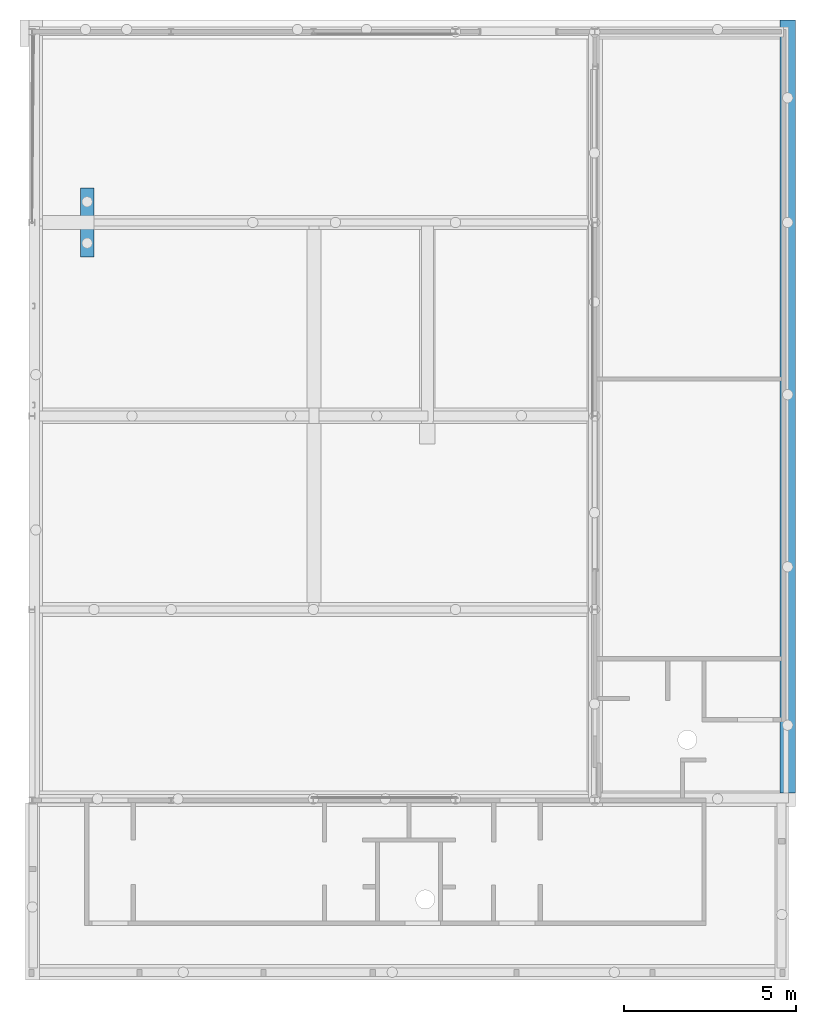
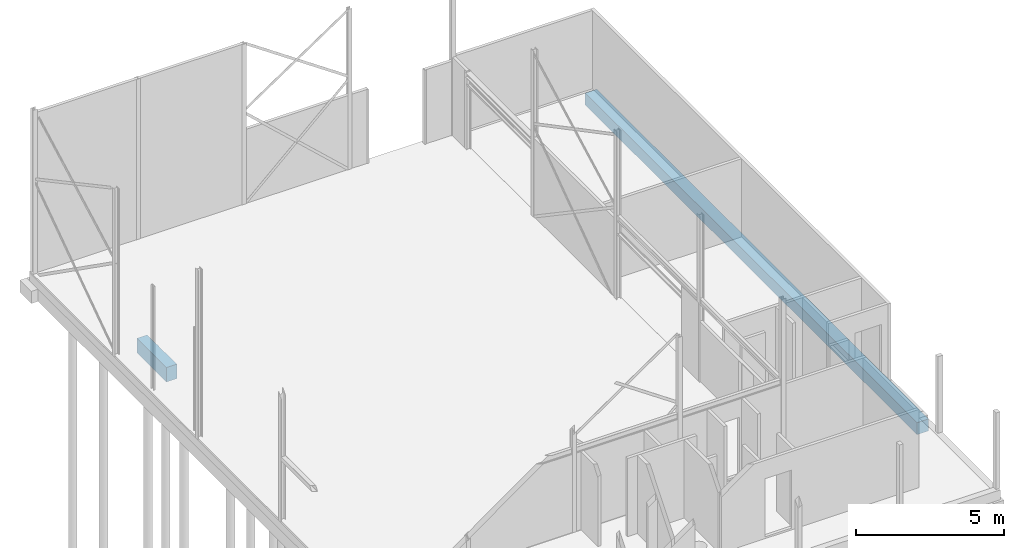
# One storey, part 15 of 17: 2 footings.
"""IFC2X3 building model written with IfcOpenShell, lengths in millimetres."""

from ifc_helpers import new_model, entity, si_unit, converted_unit, derived_unit, direction, frame, origin, place, context, subcontext, project, spatial, faceted_brep, source, transform, mapped, material, type_object, type_shapes, element, save


model = new_model("IFC2X3")

# Units and contexts
model_context = context("Model", 3, precision=0.01, world=origin(), true_north=direction((6.123031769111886e-17, 1.0)))
plan_context = context("Plan", 3, precision=0.01, world=origin(), true_north=direction((6.123031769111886e-17, 1.0)))
body_context = subcontext(model_context, "Body", "Model", "MODEL_VIEW")
ifc_project = project(units=[si_unit("LENGTHUNIT", "METRE", prefix="MILLI"), si_unit("AREAUNIT", "SQUARE_METRE"), si_unit("VOLUMEUNIT", "CUBIC_METRE"), converted_unit("PLANEANGLEUNIT", "DEGREE", entity("IfcPlaneAngleMeasure", 0.017453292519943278), si_unit("PLANEANGLEUNIT", "RADIAN"), dimensions=[0, 0, 0, 0, 0, 0, 0]), si_unit("MASSUNIT", "GRAM", prefix="KILO"), derived_unit("MASSDENSITYUNIT", [(si_unit("MASSUNIT", "GRAM", prefix="KILO"), 1), (si_unit("LENGTHUNIT", "METRE"), -3)]), derived_unit("IONCONCENTRATIONUNIT", [(si_unit("MASSUNIT", "GRAM", prefix="KILO"), 1), (si_unit("LENGTHUNIT", "METRE"), -3)]), derived_unit("MOMENTOFINERTIAUNIT", [(si_unit("LENGTHUNIT", "METRE"), 4)]), si_unit("TIMEUNIT", "SECOND"), si_unit("FREQUENCYUNIT", "HERTZ"), si_unit("THERMODYNAMICTEMPERATUREUNIT", "DEGREE_CELSIUS"), derived_unit("THERMALTRANSMITTANCEUNIT", [(si_unit("MASSUNIT", "GRAM", prefix="KILO"), 1), (si_unit("THERMODYNAMICTEMPERATUREUNIT", "KELVIN"), -1), (si_unit("TIMEUNIT", "SECOND"), -3)]), derived_unit("THERMALCONDUCTANCEUNIT", [(si_unit("MASSUNIT", "GRAM", prefix="KILO"), 1), (si_unit("THERMODYNAMICTEMPERATUREUNIT", "KELVIN"), -1), (si_unit("TIMEUNIT", "SECOND"), -3), (si_unit("LENGTHUNIT", "METRE"), 1)]), derived_unit("VOLUMETRICFLOWRATEUNIT", [(si_unit("LENGTHUNIT", "METRE", prefix="DECI"), 3), (si_unit("TIMEUNIT", "SECOND"), -1)]), derived_unit("MASSFLOWRATEUNIT", [(si_unit("MASSUNIT", "GRAM", prefix="KILO"), 1), (si_unit("TIMEUNIT", "SECOND"), -1)]), derived_unit("ROTATIONALFREQUENCYUNIT", [(si_unit("TIMEUNIT", "SECOND"), -1)]), si_unit("ELECTRICCURRENTUNIT", "AMPERE"), si_unit("ELECTRICVOLTAGEUNIT", "VOLT"), si_unit("POWERUNIT", "WATT"), si_unit("FORCEUNIT", "NEWTON", prefix="KILO"), si_unit("ILLUMINANCEUNIT", "LUX"), si_unit("LUMINOUSFLUXUNIT", "LUMEN"), si_unit("LUMINOUSINTENSITYUNIT", "CANDELA"), si_unit("ENERGYUNIT", "JOULE"), derived_unit("USERDEFINED", [(si_unit("MASSUNIT", "GRAM", prefix="KILO"), -1), (si_unit("LENGTHUNIT", "METRE"), -2), (si_unit("TIMEUNIT", "SECOND"), 3), (si_unit("LUMINOUSFLUXUNIT", "LUMEN"), 1)]), derived_unit("USERDEFINED", [(si_unit("MASSUNIT", "GRAM", prefix="KILO"), 1), (si_unit("TIMEUNIT", "SECOND"), -3), (si_unit("LENGTHUNIT", "METRE"), 3), (si_unit("ELECTRICCURRENTUNIT", "AMPERE"), -2)]), derived_unit("SOUNDPOWERUNIT", [(si_unit("MASSUNIT", "GRAM", prefix="KILO"), 1), (si_unit("TIMEUNIT", "SECOND"), -3), (si_unit("LENGTHUNIT", "METRE"), 2)]), derived_unit("SOUNDPRESSUREUNIT", [(si_unit("MASSUNIT", "GRAM", prefix="KILO"), 1), (si_unit("LENGTHUNIT", "METRE"), -1), (si_unit("TIMEUNIT", "SECOND"), -2)]), derived_unit("LINEARVELOCITYUNIT", [(si_unit("LENGTHUNIT", "METRE"), 1), (si_unit("TIMEUNIT", "SECOND"), -1)]), si_unit("PRESSUREUNIT", "PASCAL"), derived_unit("USERDEFINED", [(si_unit("MASSUNIT", "GRAM", prefix="KILO"), 1), (si_unit("LENGTHUNIT", "METRE"), -2), (si_unit("TIMEUNIT", "SECOND"), -2)]), derived_unit("LINEARFORCEUNIT", [(si_unit("MASSUNIT", "GRAM", prefix="KILO"), 1), (si_unit("TIMEUNIT", "SECOND"), -2)]), derived_unit("PLANARFORCEUNIT", [(si_unit("MASSUNIT", "GRAM", prefix="KILO"), 1), (si_unit("LENGTHUNIT", "METRE"), -1), (si_unit("TIMEUNIT", "SECOND"), -2)]), derived_unit("SPECIFICHEATCAPACITYUNIT", [(si_unit("THERMODYNAMICTEMPERATUREUNIT", "KELVIN"), -1), (si_unit("LENGTHUNIT", "METRE"), 2), (si_unit("TIMEUNIT", "SECOND"), -2)]), derived_unit("HEATFLUXDENSITYUNIT", [(si_unit("MASSUNIT", "GRAM", prefix="KILO"), 1), (si_unit("TIMEUNIT", "SECOND"), -3)]), derived_unit("HEATINGVALUEUNIT", [(si_unit("LENGTHUNIT", "METRE"), 2), (si_unit("TIMEUNIT", "SECOND"), -2)]), derived_unit("VAPORPERMEABILITYUNIT", [(si_unit("LENGTHUNIT", "METRE"), -1), (si_unit("TIMEUNIT", "SECOND"), 1)]), derived_unit("DYNAMICVISCOSITYUNIT", [(si_unit("MASSUNIT", "GRAM", prefix="KILO"), 1), (si_unit("TIMEUNIT", "SECOND"), -1), (si_unit("LENGTHUNIT", "METRE"), -1)]), derived_unit("THERMALEXPANSIONCOEFFICIENTUNIT", [(si_unit("THERMODYNAMICTEMPERATUREUNIT", "KELVIN"), -1)]), derived_unit("MODULUSOFELASTICITYUNIT", [(si_unit("MASSUNIT", "GRAM", prefix="KILO"), 1), (si_unit("LENGTHUNIT", "METRE"), -1), (si_unit("TIMEUNIT", "SECOND"), -2)]), derived_unit("ISOTHERMALMOISTURECAPACITYUNIT", [(si_unit("MASSUNIT", "GRAM", prefix="KILO"), -1), (si_unit("LENGTHUNIT", "METRE"), 3)]), derived_unit("MOISTUREDIFFUSIVITYUNIT", [(si_unit("TIMEUNIT", "SECOND"), -1), (si_unit("LENGTHUNIT", "METRE"), 2)]), derived_unit("MASSPERLENGTHUNIT", [(si_unit("MASSUNIT", "GRAM", prefix="KILO"), 1), (si_unit("LENGTHUNIT", "METRE"), -1)]), derived_unit("THERMALRESISTANCEUNIT", [(si_unit("MASSUNIT", "GRAM", prefix="KILO"), -1), (si_unit("TIMEUNIT", "SECOND"), 3), (si_unit("THERMODYNAMICTEMPERATUREUNIT", "KELVIN"), 1)]), derived_unit("ACCELERATIONUNIT", [(si_unit("LENGTHUNIT", "METRE"), 1), (si_unit("TIMEUNIT", "SECOND"), -2)]), derived_unit("ANGULARVELOCITYUNIT", [(si_unit("TIMEUNIT", "SECOND"), -1), (si_unit("PLANEANGLEUNIT", "RADIAN"), 1)]), derived_unit("LINEARSTIFFNESSUNIT", [(si_unit("MASSUNIT", "GRAM", prefix="KILO"), 1), (si_unit("TIMEUNIT", "SECOND"), -2)]), derived_unit("WARPINGCONSTANTUNIT", [(si_unit("LENGTHUNIT", "METRE"), 6)]), derived_unit("LINEARMOMENTUNIT", [(si_unit("MASSUNIT", "GRAM", prefix="KILO"), 1), (si_unit("LENGTHUNIT", "METRE"), 1), (si_unit("TIMEUNIT", "SECOND"), -2)]), derived_unit("TORQUEUNIT", [(si_unit("MASSUNIT", "GRAM", prefix="KILO"), 1), (si_unit("LENGTHUNIT", "METRE"), 2), (si_unit("TIMEUNIT", "SECOND"), -2)])], contexts=[model_context, plan_context])

# Site, building, storey
site_placement = place(None, origin())
site = spatial("IfcSite", under=ifc_project, at=site_placement, Name="Default", CompositionType="ELEMENT")
building_placement = place(site_placement, origin())
building = spatial("IfcBuilding", under=site, at=building_placement, CompositionType="ELEMENT")
storey_placement = place(building_placement, origin())
storey = spatial("IfcBuildingStorey", under=building, at=storey_placement, Name="00 begane grond", CompositionType="ELEMENT", Elevation=0.0)

# Footings
ifc_material = material(Name="ihwg beton")
type_product_1 = type_object("IfcTypeProduct", Name="16_SF_LIB_funderingsbalk_dw:450x500 (ihwg)", material=ifc_material)
shared_shape_1 = source(origin(), body_context, "Body", "Brep", [
    faceted_brep([(450.0, 0.0, -500.0), (450.0, 0.0, 0.0), (250.0, 0.0, 0.0), (100.0, 0.0, 0.0), (0.0, 0.0, 0.0), (0.0, 0.0, -500.0), (0.0, 22445.0, -500.0), (0.0, 22445.0, 0.0), (450.0, 22445.0, 0.0), (450.0, 22445.0, -500.0), (0.0, 21895.0, 0.0), (0.0, 50.0, 0.0), (0.0, 50.0, -500.0), (0.0, 21895.0, -500.0), (74.99999999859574, 1965.0, -500.0), (80.11112605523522, 1926.1771432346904, -500.0), (74.99999999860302, 6565.0, -500.0), (80.1111260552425, 6526.177143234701, -500.0), (80.11112605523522, 2003.8228567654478, -500.0), (95.09618943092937, 1890.0, -500.0), (118.93398282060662, 1858.9339828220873, -500.0), (149.99999999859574, 1835.0961894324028, -500.0), (186.17714323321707, 1820.1111260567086, -500.0), (224.99999999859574, 1815.0, -500.0), (263.82285676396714, 1820.1111260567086, -500.0), (299.99999999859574, 1835.0961894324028, -500.0), (331.0660171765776, 1858.9339828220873, -500.0), (354.9038105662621, 1890.0, -500.0), (369.88887394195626, 1926.1771432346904, -500.0), (374.99999999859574, 1965.0, -500.0), (374.999999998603, 6565.0, -500.0), (369.88887394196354, 6526.177143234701, -500.0), (369.88887394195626, 2003.8228567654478, -500.0), (354.9038105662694, 6490.0, -500.0), (354.9038105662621, 2040.0, -500.0), (331.0660171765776, 6458.933982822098, -500.0), (331.0660171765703, 2071.0660171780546, -500.0), (299.999999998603, 6435.096189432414, -500.0), (299.99999999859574, 2094.9038105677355, -500.0), (263.8228567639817, 6420.1111260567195, -500.0), (263.82285676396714, 2109.8888739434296, -500.0), (224.99999999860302, 6415.0, -500.0), (224.99999999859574, 2115.0, -500.0), (186.1771432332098, 2109.8888739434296, -500.0), (186.17714323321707, 6420.1111260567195, -500.0), (149.99999999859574, 2094.9038105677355, -500.0), (149.99999999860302, 6435.096189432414, -500.0), (118.93398282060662, 2071.066017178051, -500.0), (118.93398282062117, 6458.933982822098, -500.0), (95.09618943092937, 2040.0, -500.0), (95.09618943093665, 6490.0, -500.0), (374.9999999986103, 11565.0, -500.0), (369.88887394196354, 6603.822856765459, -500.0), (369.8888739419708, 11526.177143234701, -500.0), (354.9038105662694, 6640.0, -500.0), (354.90381056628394, 11490.0, -500.0), (331.06601717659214, 11458.933982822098, -500.0), (331.06601717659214, 6671.066017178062, -500.0), (299.9999999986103, 11435.096189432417, -500.0), (299.999999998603, 6694.903810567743, -500.0), (263.82285676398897, 11420.11112605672, -500.0), (263.8228567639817, 6709.888873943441, -500.0), (224.9999999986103, 11415.0, -500.0), (224.99999999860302, 6715.0, -500.0), (186.17714323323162, 6709.888873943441, -500.0), (186.17714323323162, 11420.11112605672, -500.0), (149.99999999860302, 6694.903810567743, -500.0), (149.9999999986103, 11435.096189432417, -500.0), (118.93398282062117, 6671.066017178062, -500.0), (118.93398282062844, 11458.933982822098, -500.0), (95.09618943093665, 6640.0, -500.0), (95.09618943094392, 11490.0, -500.0), (80.11112605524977, 11526.177143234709, -500.0), (80.1111260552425, 6603.822856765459, -500.0), (74.99999999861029, 11565.0, -500.0), (374.9999999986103, 16565.0, -500.0), (369.8888739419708, 11603.822856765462, -500.0), (369.8888739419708, 16526.177143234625, -500.0), (354.90381056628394, 11640.0, -500.0), (354.90381056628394, 16490.0, -500.0), (331.0660171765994, 11671.066017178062, -500.0), (331.06601717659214, 16458.93398282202, -500.0), (299.9999999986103, 11694.903810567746, -500.0), (299.9999999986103, 16435.096189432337, -500.0), (263.82285676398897, 11709.88887394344, -500.0), (263.82285676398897, 16420.111126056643, -500.0), (224.9999999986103, 11715.0, -500.0), (224.9999999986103, 16415.0, -500.0), (186.17714323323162, 16420.111126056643, -500.0), (186.1771432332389, 11709.88887394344, -500.0), (149.9999999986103, 16435.096189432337, -500.0), (149.9999999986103, 11694.903810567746, -500.0), (118.93398282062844, 16458.93398282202, -500.0), (118.93398282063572, 11671.06601717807, -500.0), (95.09618943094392, 16490.0, -500.0), (95.0961894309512, 11640.0, -500.0), (80.11112605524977, 16526.177143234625, -500.0), (80.11112605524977, 11603.822856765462, -500.0), (74.99999999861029, 16565.0, -500.0), (74.99999999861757, 20185.0, -500.0), (80.11112605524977, 16603.822856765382, -500.0), (374.99999999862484, 20185.0, -500.0), (369.8888739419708, 16603.822856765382, -500.0), (369.8888739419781, 20146.177143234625, -500.0), (354.90381056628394, 16640.0, -500.0), (354.9038105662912, 20110.0, -500.0), (331.0660171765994, 16671.066017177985, -500.0), (331.0660171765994, 20078.93398282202, -500.0), (299.9999999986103, 16694.90381056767, -500.0), (299.99999999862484, 20055.096189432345, -500.0), (263.82285676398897, 16709.888873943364, -500.0), (263.82285676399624, 20040.111126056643, -500.0), (224.9999999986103, 16715.0, -500.0), (224.99999999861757, 20035.0, -500.0), (186.1771432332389, 20040.111126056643, -500.0), (186.1771432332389, 16709.888873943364, -500.0), (149.99999999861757, 20055.096189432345, -500.0), (149.9999999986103, 16694.90381056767, -500.0), (118.93398282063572, 20078.93398282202, -500.0), (118.93398282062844, 16671.066017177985, -500.0), (95.0961894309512, 20110.0, -500.0), (95.09618943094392, 16640.0, -500.0), (80.11112605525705, 20146.177143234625, -500.0), (369.8888739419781, 20223.822856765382, -500.0), (354.9038105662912, 20260.0, -500.0), (331.0660171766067, 20291.066017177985, -500.0), (299.99999999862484, 20314.90381056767, -500.0), (263.82285676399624, 20329.888873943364, -500.0), (224.99999999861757, 20335.0, -500.0), (186.17714323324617, 20329.888873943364, -500.0), (149.99999999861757, 20314.90381056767, -500.0), (118.93398282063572, 20291.066017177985, -500.0), (95.0961894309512, 20260.0, -500.0), (80.11112605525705, 20223.822856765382, -500.0), (299.999999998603, 6435.096189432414, -480.0), (263.8228567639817, 6420.1111260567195, -480.0), (224.99999999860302, 6415.0, -480.0), (186.17714323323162, 6420.1111260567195, -480.0), (149.99999999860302, 6435.096189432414, -480.0), (118.93398282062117, 6458.933982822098, -480.0), (95.09618943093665, 6490.0, -480.0), (80.1111260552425, 6526.177143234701, -480.0), (74.99999999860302, 6565.0, -480.0), (80.1111260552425, 6603.822856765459, -480.0), (95.09618943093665, 6640.0, -480.0), (118.93398282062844, 6671.066017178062, -480.0), (149.99999999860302, 6694.903810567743, -480.0), (186.17714323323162, 6709.888873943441, -480.0), (224.99999999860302, 6715.0, -480.0), (263.8228567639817, 6709.888873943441, -480.0), (299.999999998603, 6694.903810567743, -480.0), (331.06601717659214, 6671.066017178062, -480.0), (354.9038105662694, 6640.0, -480.0), (369.88887394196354, 6603.822856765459, -480.0), (374.999999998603, 6565.0, -480.0), (369.88887394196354, 6526.177143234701, -480.0), (354.9038105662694, 6490.0, -480.0), (331.06601717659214, 6458.933982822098, -480.0), (299.99999999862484, 20055.096189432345, -480.0), (263.82285676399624, 20040.111126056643, -480.0), (224.99999999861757, 20035.0, -480.0), (186.17714323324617, 20040.111126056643, -480.0), (149.99999999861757, 20055.096189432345, -480.0), (118.93398282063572, 20078.93398282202, -480.0), (95.0961894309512, 20110.0, -480.0), (80.11112605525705, 20146.177143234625, -480.0), (74.99999999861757, 20185.0, -480.0), (80.11112605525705, 20223.822856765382, -480.0), (95.0961894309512, 20260.0, -480.0), (118.933982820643, 20291.066017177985, -480.0), (149.99999999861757, 20314.90381056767, -480.0), (186.17714323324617, 20329.888873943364, -480.0), (224.99999999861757, 20335.0, -480.0), (263.82285676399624, 20329.888873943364, -480.0), (299.99999999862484, 20314.90381056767, -480.0), (331.0660171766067, 20291.066017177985, -480.0), (354.9038105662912, 20260.0, -480.0), (369.8888739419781, 20223.822856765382, -480.0), (374.99999999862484, 20185.0, -480.0), (369.8888739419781, 20146.177143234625, -480.0), (354.9038105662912, 20110.0, -480.0), (331.0660171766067, 20078.93398282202, -480.0), (299.9999999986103, 11435.096189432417, -480.0), (263.82285676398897, 11420.11112605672, -480.0), (224.9999999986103, 11415.0, -480.0), (186.1771432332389, 11420.11112605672, -480.0), (149.9999999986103, 11435.096189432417, -480.0), (118.93398282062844, 11458.933982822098, -480.0), (95.09618943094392, 11490.0, -480.0), (80.11112605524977, 11526.177143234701, -480.0), (74.99999999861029, 11565.0, -480.0), (80.11112605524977, 11603.822856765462, -480.0), (95.09618943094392, 11640.0, -480.0), (118.93398282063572, 11671.066017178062, -480.0), (149.9999999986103, 11694.903810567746, -480.0), (186.1771432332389, 11709.88887394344, -480.0), (224.9999999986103, 11715.0, -480.0), (263.82285676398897, 11709.88887394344, -480.0), (299.9999999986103, 11694.903810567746, -480.0), (331.0660171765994, 11671.066017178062, -480.0), (354.90381056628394, 11640.0, -480.0), (369.8888739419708, 11603.822856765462, -480.0), (374.9999999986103, 11565.0, -480.0), (369.8888739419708, 11526.177143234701, -480.0), (354.90381056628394, 11490.0, -480.0), (331.0660171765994, 11458.933982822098, -480.0), (299.99999999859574, 1835.0961894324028, -480.0), (263.82285676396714, 1820.1111260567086, -480.0), (224.99999999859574, 1815.0, -480.0), (186.17714323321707, 1820.1111260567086, -480.0), (149.99999999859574, 1835.0961894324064, -480.0), (118.93398282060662, 1858.9339828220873, -480.0), (95.09618943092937, 1890.0, -480.0), (80.11112605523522, 1926.177143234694, -480.0), (74.99999999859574, 1965.0, -480.0), (80.11112605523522, 2003.8228567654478, -480.0), (95.09618943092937, 2040.0, -480.0), (118.93398282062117, 2071.066017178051, -480.0), (149.99999999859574, 2094.9038105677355, -480.0), (186.17714323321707, 2109.8888739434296, -480.0), (224.99999999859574, 2115.0, -480.0), (263.82285676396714, 2109.8888739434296, -480.0), (299.99999999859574, 2094.9038105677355, -480.0), (331.0660171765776, 2071.066017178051, -480.0), (354.9038105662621, 2040.0, -480.0), (369.88887394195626, 2003.8228567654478, -480.0), (374.99999999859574, 1965.0, -480.0), (369.88887394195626, 1926.1771432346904, -480.0), (354.9038105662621, 1890.0, -480.0), (331.0660171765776, 1858.9339828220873, -480.0), (299.9999999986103, 16435.096189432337, -480.0), (263.82285676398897, 16420.111126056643, -480.0), (224.9999999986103, 16415.0, -480.0), (186.1771432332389, 16420.111126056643, -480.0), (149.9999999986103, 16435.096189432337, -480.0), (118.93398282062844, 16458.93398282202, -480.0), (95.09618943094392, 16490.0, -480.0), (80.11112605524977, 16526.177143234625, -480.0), (74.99999999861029, 16565.0, -480.0), (80.11112605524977, 16603.822856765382, -480.0), (95.09618943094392, 16640.0, -480.0), (118.93398282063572, 16671.066017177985, -480.0), (149.9999999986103, 16694.90381056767, -480.0), (186.1771432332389, 16709.888873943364, -480.0), (224.9999999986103, 16715.0, -480.0), (263.82285676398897, 16709.888873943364, -480.0), (299.9999999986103, 16694.90381056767, -480.0), (331.0660171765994, 16671.066017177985, -480.0), (354.90381056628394, 16640.0, -480.0), (369.8888739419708, 16603.822856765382, -480.0), (374.9999999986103, 16565.0, -480.0), (369.8888739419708, 16526.177143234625, -480.0), (354.90381056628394, 16490.0, -480.0), (331.0660171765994, 16458.93398282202, -480.0)], [[[0, 1, 2, 3, 4, 5]], [[6, 7, 8, 9]], [[1, 8, 7, 10, 11, 4, 3, 2]], [[12, 5, 4, 11, 10, 7, 6, 13]], [[14, 15, 12]], [[16, 14, 12]], [[17, 14, 16]], [[17, 18, 14]], [[12, 15, 19]], [[12, 19, 20]], [[12, 20, 21]], [[22, 12, 21]], [[23, 12, 22]], [[0, 12, 23]], [[24, 0, 23]], [[0, 24, 25]], [[0, 25, 26]], [[0, 26, 27]], [[27, 28, 0]], [[29, 0, 28]], [[29, 30, 0]], [[29, 31, 30]], [[31, 29, 32]], [[31, 32, 33]], [[33, 32, 34]], [[34, 35, 33]], [[35, 34, 36]], [[37, 35, 36]], [[36, 38, 37]], [[37, 38, 39]], [[38, 40, 39]], [[39, 40, 41]], [[40, 42, 41]], [[41, 42, 43]], [[43, 44, 41]], [[43, 45, 44]], [[44, 45, 46]], [[45, 47, 46]], [[48, 46, 47]], [[49, 48, 47]], [[48, 49, 50]], [[18, 50, 49]], [[18, 17, 50]], [[51, 0, 30]], [[30, 52, 51]], [[52, 53, 51]], [[52, 54, 53]], [[53, 54, 55]], [[54, 56, 55]], [[56, 54, 57]], [[56, 57, 58]], [[59, 58, 57]], [[60, 58, 59]], [[61, 60, 59]], [[61, 62, 60]], [[63, 62, 61]], [[62, 63, 64]], [[64, 65, 62]], [[66, 65, 64]], [[67, 65, 66]], [[67, 66, 68]], [[68, 69, 67]], [[70, 69, 68]], [[70, 71, 69]], [[72, 71, 70]], [[73, 72, 70]], [[74, 73, 16]], [[73, 74, 72]], [[9, 0, 51]], [[75, 9, 51]], [[51, 76, 75]], [[77, 75, 76]], [[76, 78, 77]], [[77, 78, 79]], [[78, 80, 79]], [[79, 80, 81]], [[80, 82, 81]], [[83, 81, 82]], [[83, 82, 84]], [[84, 85, 83]], [[85, 84, 86]], [[85, 86, 87]], [[86, 88, 87]], [[88, 86, 89]], [[90, 88, 89]], [[90, 89, 91]], [[91, 92, 90]], [[92, 91, 93]], [[94, 92, 93]], [[93, 95, 94]], [[96, 94, 95]], [[95, 97, 96]], [[96, 97, 98]], [[74, 98, 97]], [[13, 98, 74]], [[98, 13, 99]], [[99, 100, 98]], [[9, 75, 101]], [[101, 75, 102]], [[102, 103, 101]], [[103, 102, 104]], [[103, 104, 105]], [[106, 105, 104]], [[105, 106, 107]], [[106, 108, 107]], [[107, 108, 109]], [[109, 108, 110]], [[110, 111, 109]], [[110, 112, 111]], [[111, 112, 113]], [[112, 114, 113]], [[115, 114, 112]], [[116, 114, 115]], [[115, 117, 116]], [[116, 117, 118]], [[119, 118, 117]], [[120, 118, 119]], [[120, 119, 121]], [[122, 121, 100]], [[121, 122, 120]], [[101, 123, 9]], [[124, 9, 123]], [[9, 124, 125]], [[126, 13, 125]], [[125, 13, 9]], [[127, 13, 126]], [[128, 13, 127]], [[129, 13, 128]], [[13, 129, 130]], [[131, 13, 130]], [[13, 131, 132]], [[132, 133, 13]], [[13, 133, 99]], [[122, 100, 99]], [[9, 13, 6]], [[0, 5, 12]], [[74, 16, 12]], [[12, 13, 74]], [[1, 0, 9, 8]], [[134, 135, 136, 137, 138, 139, 140, 141, 142, 143, 144, 145, 146, 147, 148, 149, 150, 151, 152, 153, 154, 155, 156, 157]], [[158, 159, 160, 161, 162, 163, 164, 165, 166, 167, 168, 169, 170, 171, 172, 173, 174, 175, 176, 177, 178, 179, 180, 181]], [[182, 183, 184, 185, 186, 187, 188, 189, 190, 191, 192, 193, 194, 195, 196, 197, 198, 199, 200, 201, 202, 203, 204, 205]], [[206, 207, 208, 209, 210, 211, 212, 213, 214, 215, 216, 217, 218, 219, 220, 221, 222, 223, 224, 225, 226, 227, 228, 229]], [[230, 231, 232, 233, 234, 235, 236, 237, 238, 239, 240, 241, 242, 243, 244, 245, 246, 247, 248, 249, 250, 251, 252, 253]], [[16, 142, 141, 17]], [[17, 141, 140, 50]], [[46, 48, 139, 138]], [[48, 50, 140, 139]], [[137, 44, 46, 138]], [[44, 137, 136, 41]], [[37, 39, 135, 134]], [[37, 134, 157, 35]], [[31, 33, 156, 155]], [[156, 33, 35, 157]], [[154, 30, 31, 155]], [[41, 136, 135, 39]], [[30, 154, 153, 52]], [[52, 153, 152, 54]], [[59, 57, 151, 150]], [[54, 152, 151, 57]], [[59, 150, 149, 61]], [[61, 149, 148, 63]], [[64, 63, 148, 147]], [[64, 147, 146, 66]], [[70, 68, 145, 144]], [[66, 146, 145, 68]], [[70, 144, 143, 73]], [[16, 73, 143, 142]], [[99, 166, 165, 122]], [[122, 165, 164, 120]], [[116, 118, 163, 162]], [[118, 120, 164, 163]], [[161, 114, 116, 162]], [[114, 161, 160, 113]], [[109, 111, 159, 158]], [[109, 158, 181, 107]], [[103, 105, 180, 179]], [[180, 105, 107, 181]], [[178, 101, 103, 179]], [[113, 160, 159, 111]], [[101, 178, 177, 123]], [[123, 177, 176, 124]], [[126, 125, 175, 174]], [[124, 176, 175, 125]], [[126, 174, 173, 127]], [[127, 173, 172, 128]], [[129, 128, 172, 171]], [[129, 171, 170, 130]], [[132, 131, 169, 168]], [[130, 170, 169, 131]], [[132, 168, 167, 133]], [[99, 133, 167, 166]], [[74, 190, 189, 72]], [[72, 189, 188, 71]], [[67, 69, 187, 186]], [[69, 71, 188, 187]], [[185, 65, 67, 186]], [[65, 185, 184, 62]], [[58, 60, 183, 182]], [[58, 182, 205, 56]], [[53, 55, 204, 203]], [[204, 55, 56, 205]], [[202, 51, 53, 203]], [[62, 184, 183, 60]], [[51, 202, 201, 76]], [[76, 201, 200, 78]], [[82, 80, 199, 198]], [[78, 200, 199, 80]], [[82, 198, 197, 84]], [[84, 197, 196, 86]], [[89, 86, 196, 195]], [[89, 195, 194, 91]], [[95, 93, 193, 192]], [[91, 194, 193, 93]], [[95, 192, 191, 97]], [[74, 97, 191, 190]], [[14, 214, 213, 15]], [[15, 213, 212, 19]], [[21, 20, 211, 210]], [[20, 19, 212, 211]], [[209, 22, 21, 210]], [[22, 209, 208, 23]], [[25, 24, 207, 206]], [[25, 206, 229, 26]], [[28, 27, 228, 227]], [[228, 27, 26, 229]], [[226, 29, 28, 227]], [[23, 208, 207, 24]], [[29, 226, 225, 32]], [[32, 225, 224, 34]], [[38, 36, 223, 222]], [[34, 224, 223, 36]], [[38, 222, 221, 40]], [[40, 221, 220, 42]], [[43, 42, 220, 219]], [[43, 219, 218, 45]], [[49, 47, 217, 216]], [[45, 218, 217, 47]], [[49, 216, 215, 18]], [[14, 18, 215, 214]], [[98, 238, 237, 96]], [[96, 237, 236, 94]], [[90, 92, 235, 234]], [[92, 94, 236, 235]], [[233, 88, 90, 234]], [[88, 233, 232, 87]], [[83, 85, 231, 230]], [[83, 230, 253, 81]], [[77, 79, 252, 251]], [[252, 79, 81, 253]], [[250, 75, 77, 251]], [[87, 232, 231, 85]], [[75, 250, 249, 102]], [[102, 249, 248, 104]], [[108, 106, 247, 246]], [[104, 248, 247, 106]], [[108, 246, 245, 110]], [[110, 245, 244, 112]], [[115, 112, 244, 243]], [[115, 243, 242, 117]], [[121, 119, 241, 240]], [[117, 242, 241, 119]], [[121, 240, 239, 100]], [[98, 100, 239, 238]]]),
])
type_shapes(type_product_1, [shared_shape_1])
footing_1_placement = place(storey_placement, frame((55876.19293735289, 16547.67034020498, -470.0)))
element("IfcFooting", 1, at=footing_1_placement, inside=storey, type_object=type_product_1, material=ifc_material, Name="16_SF_LIB_funderingsbalk_dw:450x500 (ihwg)", ObjectType="16_SF_LIB_funderingsbalk_dw:450x500 (ihwg)", context=body_context, shape_type="MappedRepresentation", body=[
    mapped(shared_shape_1, transform((0.0, 0.0, 0.0), scale=1.0)),
])
type_product_2 = type_object("IfcTypeProduct", Name="16_SF_LIB_funderingsbalk_dw:poer 400x600", material=ifc_material)
shared_shape_2 = source(origin(), body_context, "Body", "Brep", [
    faceted_brep([(0.0, 2000.0, 0.0), (0.0, 2000.0, 600.0), (400.0, 2000.0, 600.0), (400.0, 2000.0, 0.0), (400.0, 0.0, 0.0), (400.0, 0.0, 600.0), (0.0, 0.0, 600.0), (0.0, 0.0, 0.0), (0.0, 1200.0, 600.0), (0.0, 800.0, 600.0), (400.0, 800.0, 600.0), (395.0, 800.0, 600.0), (395.0, 1200.0, 600.0), (400.0, 1200.0, 600.0), (400.0, 1200.0, 150.0), (400.0, 800.0, 150.0), (344.8888739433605, 1638.822856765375, 0.0), (329.90381056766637, 1675.0, 0.0), (350.0, 1600.0, 0.0), (306.06601717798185, 1706.0660171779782, 0.0), (275.0, 1729.9038105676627, 0.0), (238.82285676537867, 1744.8888739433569, 0.0), (200.0, 1750.0, 0.0), (350.0, 400.0, 0.0), (344.8888739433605, 361.17714323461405, 0.0), (329.90381056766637, 325.0, 0.0), (306.06601717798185, 293.9339828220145, 0.0), (275.0, 270.09618943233, 0.0), (238.82285676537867, 255.11112605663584, 0.0), (200.0, 250.0, 0.0), (161.17714323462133, 255.11112605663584, 0.0), (125.0, 270.09618943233, 0.0), (93.93398282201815, 293.9339828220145, 0.0), (70.09618943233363, 325.0, 0.0), (55.11112605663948, 361.17714323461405, 0.0), (50.0, 400.0, 0.0), (161.17714323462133, 1744.8888739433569, 0.0), (125.0, 1729.9038105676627, 0.0), (93.93398282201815, 1706.0660171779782, 0.0), (70.09618943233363, 1675.0, 0.0), (55.11112605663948, 1638.822856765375, 0.0), (50.0, 1600.0, 0.0), (55.11112605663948, 438.82285676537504, 0.0), (344.8888739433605, 438.82285676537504, 0.0), (344.8888739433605, 1561.1771432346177, 0.0), (329.90381056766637, 475.0, 0.0), (329.90381056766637, 1525.0, 0.0), (306.06601717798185, 506.0660171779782, 0.0), (306.06601717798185, 1493.9339828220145, 0.0), (275.0, 1470.09618943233, 0.0), (275.0, 529.9038105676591, 0.0), (238.82285676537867, 1455.1111260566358, 0.0), (238.82285676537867, 544.8888739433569, 0.0), (200.0, 1450.0, 0.0), (200.0, 550.0, 0.0), (161.17714323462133, 544.8888739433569, 0.0), (161.17714323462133, 1455.1111260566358, 0.0), (125.0, 529.9038105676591, 0.0), (125.0, 1470.09618943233, 0.0), (93.93398282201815, 506.0660171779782, 0.0), (93.93398282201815, 1493.9339828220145, 0.0), (70.09618943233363, 1525.0, 0.0), (70.09618943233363, 475.0, 0.0), (55.11112605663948, 1561.1771432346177, 0.0), (395.0, 1200.0, 150.0), (395.0, 800.0, 150.0), (275.0, 270.09618943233, 20.0), (238.82285676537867, 255.11112605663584, 20.0), (200.0, 250.0, 20.0), (161.17714323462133, 255.11112605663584, 20.0), (125.0, 270.09618943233, 20.0), (93.93398282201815, 293.9339828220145, 20.0), (70.09618943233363, 325.0, 20.0), (55.11112605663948, 361.17714323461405, 20.0), (50.0, 400.0, 20.0), (55.11112605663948, 438.82285676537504, 20.0), (70.09618943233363, 475.0, 20.0), (93.93398282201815, 506.0660171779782, 20.0), (125.0, 529.9038105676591, 20.0), (161.17714323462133, 544.8888739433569, 20.0), (200.0, 550.0, 20.0), (238.82285676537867, 544.8888739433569, 20.0), (275.0, 529.9038105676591, 20.0), (306.06601717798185, 506.0660171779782, 20.0), (329.90381056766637, 475.0, 20.0), (344.8888739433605, 438.82285676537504, 20.0), (350.0, 400.0, 20.0), (344.8888739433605, 361.17714323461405, 20.0), (329.90381056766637, 325.0, 20.0), (306.06601717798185, 293.9339828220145, 20.0), (275.0, 1470.09618943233, 20.0), (238.82285676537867, 1455.1111260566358, 20.0), (200.0, 1450.0, 20.0), (161.17714323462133, 1455.1111260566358, 20.0), (125.0, 1470.09618943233, 20.0), (93.93398282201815, 1493.9339828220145, 20.0), (70.09618943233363, 1525.0, 20.0), (55.11112605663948, 1561.1771432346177, 20.0), (50.0, 1600.0, 20.0), (55.11112605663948, 1638.822856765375, 20.0), (70.09618943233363, 1675.0, 20.0), (93.93398282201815, 1706.0660171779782, 20.0), (125.0, 1729.9038105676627, 20.0), (161.17714323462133, 1744.8888739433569, 20.0), (200.0, 1750.0, 20.0), (238.82285676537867, 1744.8888739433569, 20.0), (275.0, 1729.9038105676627, 20.0), (306.06601717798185, 1706.0660171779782, 20.0), (329.90381056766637, 1675.0, 20.0), (344.8888739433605, 1638.822856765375, 20.0), (350.0, 1600.0, 20.0), (344.8888739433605, 1561.1771432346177, 20.0), (329.90381056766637, 1525.0, 20.0), (306.06601717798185, 1493.9339828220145, 20.0)], [[[0, 1, 2, 3]], [[4, 5, 6, 7]], [[1, 8, 9, 6, 5, 10, 11, 12, 13, 2]], [[2, 13, 14, 15, 10, 5, 4, 3]], [[3, 16, 17]], [[16, 3, 18]], [[3, 17, 19]], [[19, 20, 3]], [[20, 21, 3]], [[3, 21, 22]], [[3, 23, 18]], [[22, 0, 3]], [[4, 23, 3]], [[23, 4, 24]], [[24, 4, 25]], [[26, 25, 4]], [[26, 4, 27]], [[28, 27, 4]], [[4, 29, 28]], [[29, 4, 7]], [[30, 29, 7]], [[31, 30, 7]], [[7, 32, 31]], [[32, 7, 33]], [[34, 33, 7]], [[34, 7, 35]], [[35, 7, 0]], [[22, 36, 0]], [[36, 37, 0]], [[38, 0, 37]], [[0, 38, 39]], [[0, 39, 40]], [[40, 41, 0]], [[0, 41, 35]], [[42, 35, 41]], [[43, 18, 23]], [[44, 18, 43]], [[43, 45, 44]], [[46, 44, 45]], [[45, 47, 46]], [[46, 47, 48]], [[49, 48, 47]], [[47, 50, 49]], [[49, 50, 51]], [[50, 52, 51]], [[53, 51, 52]], [[52, 54, 53]], [[54, 55, 53]], [[53, 55, 56]], [[55, 57, 56]], [[58, 56, 57]], [[57, 59, 58]], [[60, 58, 59]], [[60, 59, 61]], [[59, 62, 61]], [[63, 61, 62]], [[62, 42, 63]], [[41, 63, 42]], [[1, 0, 7, 6, 9, 8]], [[13, 12, 64, 14]], [[14, 64, 65, 15]], [[15, 65, 11, 10]], [[66, 67, 68, 69, 70, 71, 72, 73, 74, 75, 76, 77, 78, 79, 80, 81, 82, 83, 84, 85, 86, 87, 88, 89]], [[90, 91, 92, 93, 94, 95, 96, 97, 98, 99, 100, 101, 102, 103, 104, 105, 106, 107, 108, 109, 110, 111, 112, 113]], [[35, 74, 73, 34]], [[34, 73, 72, 33]], [[31, 32, 71, 70]], [[33, 72, 71, 32]], [[69, 30, 31, 70]], [[30, 69, 68, 29]], [[28, 67, 66, 27]], [[27, 66, 89, 26]], [[24, 25, 88, 87]], [[26, 89, 88, 25]], [[86, 23, 24, 87]], [[29, 68, 67, 28]], [[43, 23, 86, 85]], [[43, 85, 84, 45]], [[50, 47, 83, 82]], [[83, 47, 45, 84]], [[81, 52, 50, 82]], [[52, 81, 80, 54]], [[55, 54, 80, 79]], [[55, 79, 78, 57]], [[62, 59, 77, 76]], [[57, 78, 77, 59]], [[62, 76, 75, 42]], [[35, 42, 75, 74]], [[41, 98, 97, 63]], [[63, 97, 96, 61]], [[58, 60, 95, 94]], [[61, 96, 95, 60]], [[93, 56, 58, 94]], [[56, 93, 92, 53]], [[51, 91, 90, 49]], [[49, 90, 113, 48]], [[44, 46, 112, 111]], [[48, 113, 112, 46]], [[110, 18, 44, 111]], [[53, 92, 91, 51]], [[16, 18, 110, 109]], [[16, 109, 108, 17]], [[20, 19, 107, 106]], [[107, 19, 17, 108]], [[105, 21, 20, 106]], [[21, 105, 104, 22]], [[36, 22, 104, 103]], [[36, 103, 102, 37]], [[39, 38, 101, 100]], [[37, 102, 101, 38]], [[39, 100, 99, 40]], [[41, 40, 99, 98]], [[12, 11, 65, 64]]]),
])
type_shapes(type_product_2, [shared_shape_2])
footing_2_placement = place(storey_placement, frame((35556.19293735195, 32112.670340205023, -1120.0)))
element("IfcFooting", 2, at=footing_2_placement, inside=storey, type_object=type_product_2, material=ifc_material, Name="16_SF_LIB_funderingsbalk_dw:poer 400x600", ObjectType="16_SF_LIB_funderingsbalk_dw:poer 400x600", context=body_context, shape_type="MappedRepresentation", body=[
    mapped(shared_shape_2, transform((0.0, 0.0, 0.0), scale=1.0)),
])

save(model, "model.ifc")
